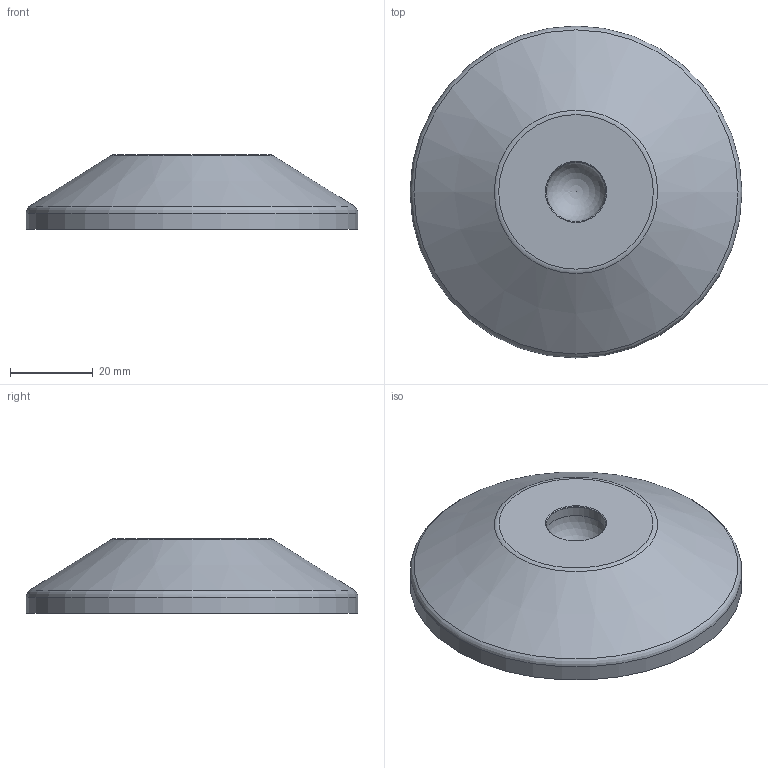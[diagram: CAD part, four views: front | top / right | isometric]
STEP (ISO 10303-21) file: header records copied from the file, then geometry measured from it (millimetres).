
FILE_DESCRIPTION(('STEP AP203'), '1');
FILE_NAME('A00015.1080 _ Îñíîâàíèÿ øàðíèðíûõ îïîð èç ïëàñòèêà, 20°', '', ('UNSPECIFIED'), ('UNSPECIFIED'), 'C3D Converter', 'C3D Toolkit', '');
FILE_SCHEMA(('CONFIG_CONTROL_DESIGN'));
Length unit declared in the file: millimetre
Products named in the file (1): A00015.1080
Bounding box: 80 x 80 x 18 mm (x, y, z)
Volume: 35761.7 mm3; surface area: 16524 mm2
Topology: 1 solids, 1 shells, 148 faces, 371 edges, 244 vertices
Faces by surface type: plane 77, cylinder 54, torus 13, cone 3, sphere 1
Full cylindrical faces by diameter (mm): 4 x8, 14.3 x1, 15 x2, 15.5 x1, 69.3 x1, 80 x1
Entity records: 5495 total; most frequent: CARTESIAN_POINT 1933, DIRECTION 752, ORIENTED_EDGE 694, EDGE_CURVE 347, AXIS2_PLACEMENT_3D 288, VERTEX_POINT 243, EDGE_LOOP 190, LINE 176
